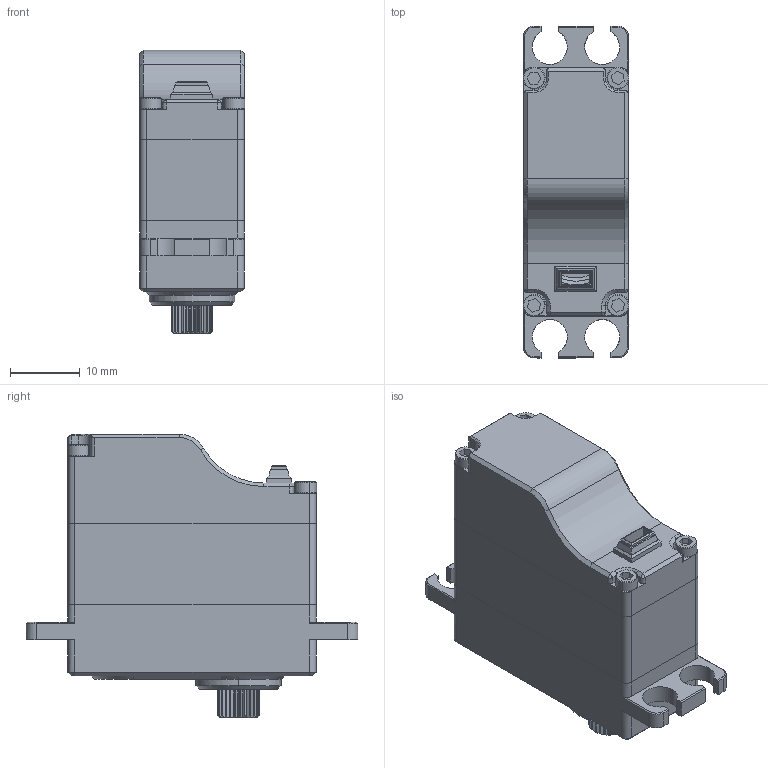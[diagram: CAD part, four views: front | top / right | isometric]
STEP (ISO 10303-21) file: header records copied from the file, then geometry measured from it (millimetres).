
FILE_DESCRIPTION (( 'STEP AP214' ), '1' );
FILE_NAME ('SV15X-12_DM_202504.STEP', '2025-04-19T03:52:42', ( '' ), ( '' ), 'SwSTEP 2.0', 'SolidWorks 2016', '' );
FILE_SCHEMA (( 'AUTOMOTIVE_DESIGN' ));
Length unit declared in the file: millimetre
Products named in the file (1): SV15X-12_DM_202504
Bounding box: 15.14 x 47.5 x 40.6 mm (x, y, z)
Surface area: 5415.2 mm2 (no closed solid volume)
Topology: 0 solids, 14 shells, 387 faces, 1257 edges, 882 vertices
Faces by surface type: plane 197, cylinder 118, cone 72
Entity records: 19069 total; most frequent: CARTESIAN_POINT 3828, DIRECTION 2280, ORIENTED_EDGE 2214, EDGE_CURVE 1253, VERTEX_POINT 882, AXIS2_PLACEMENT_3D 800, LINE 680, VECTOR 680
